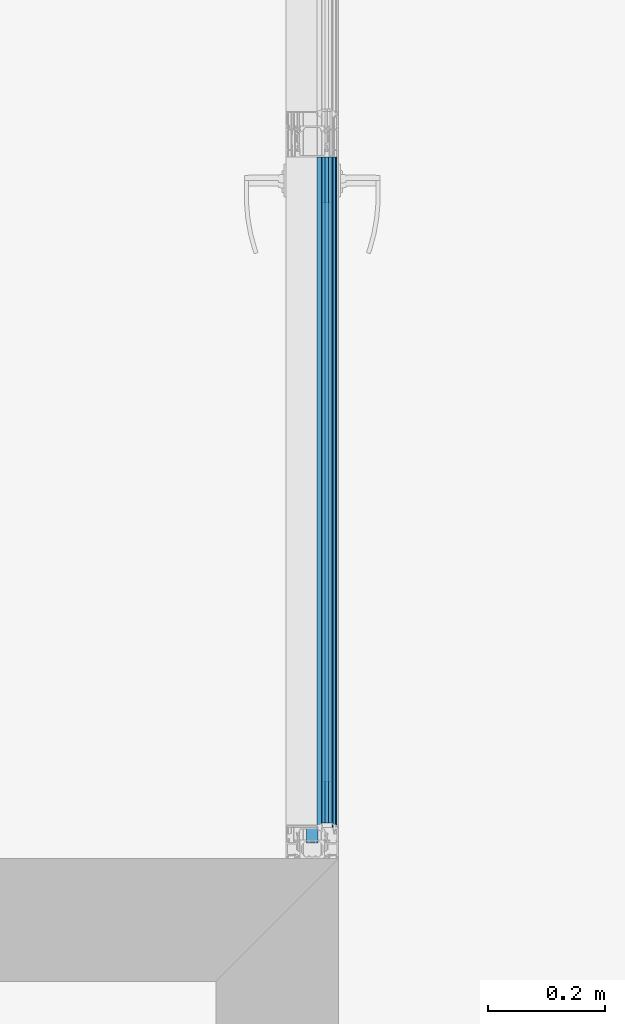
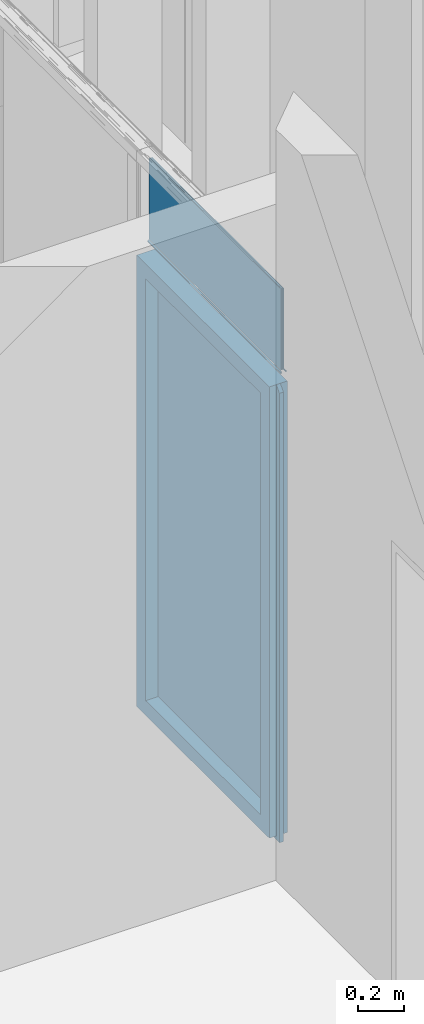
# One storey, part 51 of 89: 5 building element parts, 4 elements without a shape of their own.
"""IFC2X3 building model written with IfcOpenShell, lengths in millimetres."""

from ifc_helpers import new_model, entity, si_unit, converted_unit, derived_unit, money_unit, direction, frame, origin_with_axes, place, context, subcontext, project, spatial, faceted_brep, material, type_object, element, aggregate, save


model = new_model("IFC2X3")

# Units and contexts
model_context = context("Model", 3, precision=0.01, world=origin_with_axes(), true_north=direction((0.0, 1.0)))
body_context = subcontext(model_context, "Body", "Model", "MODEL_VIEW")
ifc_project = project(units=[si_unit("LENGTHUNIT", "METRE", prefix="MILLI"), si_unit("AREAUNIT", "SQUARE_METRE"), si_unit("VOLUMEUNIT", "CUBIC_METRE"), converted_unit("PLANEANGLEUNIT", "DEGREE", entity("IfcPlaneAngleMeasure", 0.0174532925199), si_unit("PLANEANGLEUNIT", "RADIAN"), dimensions=[0, 0, 0, 0, 0, 0, 0]), si_unit("SOLIDANGLEUNIT", "STERADIAN"), money_unit("EUR"), converted_unit("TIMEUNIT", "Year", entity("IfcTimeMeasure", 31556926.0), si_unit("TIMEUNIT", "SECOND"), dimensions=[0, 0, 1, 0, 0, 0, 0]), si_unit("MASSUNIT", "GRAM", prefix="KILO"), si_unit("THERMODYNAMICTEMPERATUREUNIT", "DEGREE_CELSIUS"), si_unit("LUMINOUSINTENSITYUNIT", "LUMEN"), si_unit("ENERGYUNIT", "JOULE", prefix="MEGA"), derived_unit("THERMALCONDUCTANCEUNIT", [(si_unit("POWERUNIT", "WATT"), 1), (si_unit("LENGTHUNIT", "METRE"), -1), (si_unit("THERMODYNAMICTEMPERATUREUNIT", "KELVIN"), -1)]), derived_unit("SPECIFICHEATCAPACITYUNIT", [(si_unit("ENERGYUNIT", "JOULE"), 1), (si_unit("MASSUNIT", "GRAM", prefix="KILO"), -1), (si_unit("THERMODYNAMICTEMPERATUREUNIT", "KELVIN"), -1)]), derived_unit("MASSDENSITYUNIT", [(si_unit("MASSUNIT", "GRAM", prefix="KILO"), 1), (si_unit("VOLUMEUNIT", "CUBIC_METRE"), -1)])], contexts=[model_context])

# Site, building, storey
site_placement = place(None, origin_with_axes())
site = spatial("IfcSite", under=ifc_project, at=site_placement, Name="Puškini 31, Narva", CompositionType="ELEMENT")
building_placement = place(site_placement, origin_with_axes())
building = spatial("IfcBuilding", under=site, at=building_placement, Name="Narva Riigigümnaasium", CompositionType="ELEMENT")
storey_placement = place(building_placement, frame((0.0, 0.0, -3300.0), z_axis=(0.0, 0.0, 1.0), x_axis=(1.0, 0.0, 0.0)))
storey = spatial("IfcBuildingStorey", under=building, at=storey_placement, Name="1.korrus -3.3", CompositionType="ELEMENT", Elevation=-3300.0)

# Curtain wall, door, building element parts, plate, member
curtain_wall_type = type_object("IfcCurtainWallType", Name="Curtain Wall Type", PredefinedType="NOTDEFINED")
curtain_wall_placement = place(storey_placement, frame((34855.0104166, 221770.599999, -2.45869391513e-05), z_axis=(0.0, 0.0, 1.0), x_axis=(1.0, 0.0, 0.0)))
curtain_wall = element("IfcCurtainWall", 1, at=curtain_wall_placement, inside=storey, type_object=curtain_wall_type, Name="G-SKLF-08")
door_style = type_object("IfcDoorStyle", Name="1132 x 2369 x 20", ConstructionType="NOTDEFINED", OperationType="NOTDEFINED", ParameterTakesPrecedence=False, Sizeable=False)
door_placement = place(curtain_wall_placement, frame((0.0, 0.0, 960.000024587), z_axis=(0.0, 0.0, 1.0), x_axis=(4.3055573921e-06, -0.999999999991, 0.0)))
door = element("IfcDoor", 2, at=door_placement, type_object=door_style, Name="G-SKLF-08-U1", ObjectType="DOOR")
ifc_material_1 = material(Name="Alumiiniumprofiil")
building_element_part_1_placement = place(door_placement, origin_with_axes())
building_element_part_1 = element("IfcBuildingElementPart", 3, at=building_element_part_1_placement, material=ifc_material_1, Name="Alumiiniumprofiil", context=body_context, shape_type="Brep", body=[
    faceted_brep([(463.799985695, -10.0, -960.0), (-668.217609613, -10.0, -960.0), (-668.217609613, 10.0, -960.0), (463.799985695, 10.0, -960.0), (437.400014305, -10.0, -940.0), (-709.4, -10.0, -940.0), (-709.4, 10.0, -940.0), (437.400014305, 10.0, -940.0)], [[[0, 1, 2, 3]], [[0, 4, 5, 1]], [[1, 5, 6, 2]], [[3, 2, 6, 7]], [[4, 0, 3, 7]], [[5, 4, 7, 6]]]),
    faceted_brep([(-709.4, -10.0, -940.0), (-709.4, -10.0, 1440.0), (-709.4, 10.0, 1440.0), (-709.4, 10.0, -940.0), (-668.217609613, -10.0, -960.0), (-668.217609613, -10.0, 1409.41763822), (-668.217609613, 10.0, 1409.41763822), (-668.217609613, 10.0, -960.0)], [[[0, 1, 2, 3]], [[0, 4, 5, 1]], [[1, 5, 6, 2]], [[3, 2, 6, 7]], [[4, 0, 3, 7]], [[5, 4, 7, 6]]]),
    faceted_brep([(-709.4, -10.0, 1440.0), (437.400014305, -10.0, 1440.0), (437.400014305, 10.0, 1440.0), (-709.4, 10.0, 1440.0), (-668.217609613, -10.0, 1409.41763822), (463.799985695, -10.0, 1409.41763822), (463.799985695, 10.0, 1409.41763822), (-668.217609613, 10.0, 1409.41763822)], [[[0, 1, 2, 3]], [[0, 4, 5, 1]], [[1, 5, 6, 2]], [[3, 2, 6, 7]], [[4, 0, 3, 7]], [[5, 4, 7, 6]]]),
    faceted_brep([(463.799985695, -10.0, 1409.41763822), (463.799985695, -10.0, -960.0), (463.799985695, 10.0, -960.0), (463.799985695, 10.0, 1409.41763822), (437.400014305, -10.0, 1440.0), (437.400014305, -10.0, -940.0), (437.400014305, 10.0, -940.0), (437.400014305, 10.0, 1440.0)], [[[0, 1, 2, 3]], [[0, 4, 5, 1]], [[1, 5, 6, 2]], [[3, 2, 6, 7]], [[4, 0, 3, 7]], [[5, 4, 7, 6]]]),
    faceted_brep([(359.400014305, 45.0, -862.0), (359.400014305, -45.0, -862.0), (359.400014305, -45.0, 1362.0), (359.400014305, 45.0, 1362.0), (437.400014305, 45.0, -940.0), (437.400014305, -45.0, -940.0), (437.400014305, -45.0, 1440.0), (437.400014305, 45.0, 1440.0)], [[[0, 1, 2, 3]], [[4, 5, 1, 0]], [[1, 5, 6, 2]], [[3, 2, 6, 7]], [[0, 3, 7, 4]], [[7, 6, 5, 4]]]),
    faceted_brep([(-709.4, 45.0, -940.0), (-709.4, -45.0, -940.0), (-709.4, -45.0, 1440.0), (-709.4, 45.0, 1440.0), (-631.4, 45.0, -862.0), (-631.4, -45.0, -862.0), (-631.4, -45.0, 1362.0), (-631.4, 45.0, 1362.0)], [[[0, 1, 2, 3]], [[4, 5, 1, 0]], [[1, 5, 6, 2]], [[3, 2, 6, 7]], [[0, 3, 7, 4]], [[7, 6, 5, 4]]]),
    faceted_brep([(-709.4, 45.0, -940.0), (-709.4, -45.0, -940.0), (-631.4, -45.0, -862.0), (-631.4, 45.0, -862.0), (437.400014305, 45.0, -940.0), (437.400014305, -45.0, -940.0), (359.400014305, -45.0, -862.0), (359.400014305, 45.0, -862.0)], [[[0, 1, 2, 3]], [[4, 5, 1, 0]], [[1, 5, 6, 2]], [[3, 2, 6, 7]], [[0, 3, 7, 4]], [[7, 6, 5, 4]]]),
    faceted_brep([(437.400014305, 45.0, 1440.0), (437.400014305, -45.0, 1440.0), (359.400014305, -45.0, 1362.0), (359.400014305, 45.0, 1362.0), (-709.4, 45.0, 1440.0), (-709.4, -45.0, 1440.0), (-631.4, -45.0, 1362.0), (-631.4, 45.0, 1362.0)], [[[0, 1, 2, 3]], [[4, 5, 1, 0]], [[1, 5, 6, 2]], [[3, 2, 6, 7]], [[0, 3, 7, 4]], [[7, 6, 5, 4]]]),
])
ifc_material_2 = material(Name="VKR-05_Klaas")
building_element_part_2_placement = place(door_placement, origin_with_axes())
building_element_part_2 = element("IfcBuildingElementPart", 4, at=building_element_part_2_placement, material=ifc_material_2, Name="VKR-05_Klaas", context=body_context, shape_type="Brep", body=[
    faceted_brep([(359.400014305, 33.0, -862.0), (359.400014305, 17.0, -862.0), (-631.4, 17.0, -862.0), (-631.4, 33.0, -862.0), (359.400014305, 33.0, 1362.0), (359.400014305, 17.0, 1362.0), (-631.4, 17.0, 1362.0), (-631.4, 33.0, 1362.0)], [[[0, 1, 2, 3]], [[4, 5, 1, 0]], [[1, 5, 6, 2]], [[3, 2, 6, 7]], [[0, 3, 7, 4]], [[7, 6, 5, 4]]]),
])
aggregate(door, [building_element_part_1, building_element_part_2])
plate_type = type_object("IfcPlateType", Name="Distinct Panel 1128 x 489 x 20", PredefinedType="CURTAIN_PANEL")
plate_placement = place(curtain_wall_placement, frame((-0.000471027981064, 109.399999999, 2675.00002459), z_axis=(0.0, 0.0, 1.0), x_axis=(4.3055573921e-06, -0.999999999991, 0.0)))
plate = element("IfcPlate", 5, at=plate_placement, type_object=plate_type, Name="G-SKLF-08-klaas", ObjectType="CURTAIN_PANEL")
building_element_part_3_placement = place(plate_placement, origin_with_axes())
building_element_part_3 = element("IfcBuildingElementPart", 6, at=building_element_part_3_placement, material=ifc_material_2, Name="VKR-05_Klaas", context=body_context, shape_type="Brep", body=[
    faceted_brep([(-600.0, 17.0, 213.835294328), (538.835294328, 17.0, 213.835294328), (538.835294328, 22.0, 213.835294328), (-600.0, 22.0, 213.835294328), (-600.0, 17.0, -213.835294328), (538.835294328, 17.0, -213.835294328), (538.835294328, 22.0, -213.835294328), (-600.0, 22.0, -213.835294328)], [[[0, 1, 2, 3]], [[0, 4, 5, 1]], [[1, 5, 6, 2]], [[3, 2, 6, 7]], [[4, 0, 3, 7]], [[5, 4, 7, 6]]]),
    faceted_brep([(-600.0, 28.0, 213.835294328), (538.835294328, 28.0, 213.835294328), (538.835294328, 33.0, 213.835294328), (-600.0, 33.0, 213.835294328), (-600.0, 28.0, -213.835294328), (538.835294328, 28.0, -213.835294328), (538.835294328, 33.0, -213.835294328), (-600.0, 33.0, -213.835294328)], [[[0, 1, 2, 3]], [[0, 4, 5, 1]], [[1, 5, 6, 2]], [[3, 2, 6, 7]], [[4, 0, 3, 7]], [[5, 4, 7, 6]]]),
])
ifc_material_3 = material(Name="VKR-06_Õhkvahe")
building_element_part_4_placement = place(plate_placement, origin_with_axes())
building_element_part_4 = element("IfcBuildingElementPart", 7, at=building_element_part_4_placement, material=ifc_material_3, Name="VKR-06_Õhkvahe", context=body_context, shape_type="Brep", body=[
    faceted_brep([(-600.0, 22.0, 213.835294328), (538.835294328, 22.0, 213.835294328), (538.835294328, 28.0, 213.835294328), (-600.0, 28.0, 213.835294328), (-600.0, 22.0, -213.835294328), (538.835294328, 22.0, -213.835294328), (538.835294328, 28.0, -213.835294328), (-600.0, 28.0, -213.835294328)], [[[0, 1, 2, 3]], [[0, 4, 5, 1]], [[1, 5, 6, 2]], [[3, 2, 6, 7]], [[4, 0, 3, 7]], [[5, 4, 7, 6]]]),
])
aggregate(plate, [building_element_part_3, building_element_part_4])
member_type = type_object("IfcMemberType", Name="61 x 35", PredefinedType="MULLION")
member_placement = place(curtain_wall_placement, frame((0.00211230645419, -490.599999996, 2400.00002459), z_axis=(-4.3055573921e-06, 0.999999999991, 0.0), x_axis=(0.0, 0.0, 1.0)))
member = element("IfcMember", 8, at=member_placement, type_object=member_type, Name="G-SKLF-08-raam", ObjectType="MULLION")
aggregate(curtain_wall, [door, member, plate])
ifc_material_4 = material(Name="Membraan - Veekindel")
building_element_part_5_placement = place(member_placement, origin_with_axes())
building_element_part_5 = element("IfcBuildingElementPart", 9, at=building_element_part_5_placement, material=ifc_material_4, Name="Membraan - Veekindel", context=body_context, shape_type="Brep", body=[
    faceted_brep([(59.5800222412, 34.73794757, 53.2), (59.5800222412, 34.73794757, 1200.0), (61.0413385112, 34.3890442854, 1200.0), (61.0413385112, 34.3890442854, 53.2), (58.4755028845, 35.3628499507, 53.2), (58.4755028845, 35.3628499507, 1200.0), (57.9693613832, 36.5265882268, 1200.0), (57.7000324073, 39.5999584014, 1200.0), (57.6464370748, 39.799971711, 1200.0), (57.5000161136, 39.946391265, 1200.0), (57.3000022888, 39.9999846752, 1200.0), (57.3000022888, 39.1999494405, 1200.0), (55.3000210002, 39.1999606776, 1200.0), (55.2330337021, 38.9499606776, 1200.0), (55.0500210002, 38.7669479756, 1200.0), (54.8000210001, 38.6999606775, 1200.0), (54.5500210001, 38.7669479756, 1200.0), (54.3670082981, 38.9499606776, 1200.0), (54.300021, 39.1999606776, 1200.0), (54.300021, 40.4999366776, 1200.0), (54.3402133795, 40.6499366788, 1200.0), (54.4500210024, 40.7597443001, 1200.0), (54.6000210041, 40.7999366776, 1200.0), (54.7000173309, 40.7999366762, 1200.0), (54.866675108, 40.850483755, 1200.0), (54.9771753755, 40.9850924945, 1200.0), (54.9942836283, 41.1584047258, 1200.0), (54.9122350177, 41.3120206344, 1200.0), (53.8716106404, 42.3533776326, 1200.0), (53.7093558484, 42.4618547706, 1200.0), (53.517932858, 42.4999486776, 1200.0), (51.8818844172, 42.4999486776, 1200.0), (51.6904310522, 42.4618421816, 1200.0), (51.5281601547, 42.3533311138, 1200.0), (50.4878083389, 41.3119729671, 1200.0), (50.4057850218, 41.1583618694, 1200.0), (50.4229059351, 40.9850671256, 1200.0), (50.5334025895, 40.8504763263, 1200.0), (50.7000457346, 40.7999366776, 1200.0), (50.80004, 40.7999366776, 1200.0), (50.95004, 40.7597442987, 1200.0), (51.0598476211, 40.6499366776, 1200.0), (51.10004, 40.4999366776, 1200.0), (51.10004, 39.1999550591, 1200.0), (51.0330541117, 38.9499546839, 1200.0), (50.8500424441, 38.7669409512, 1200.0), (50.6000428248, 38.699952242, 1200.0), (50.3500424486, 38.7669381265, 1200.0), (50.1670287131, 38.9499497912, 1200.0), (50.10004, 39.1999494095, 1200.0), (48.7206527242, 39.1999494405, 1200.0), (48.7206527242, 38.0023809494, 1200.0), (48.7876400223, 37.7523809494, 1200.0), (48.9706527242, 37.5693682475, 1200.0), (49.2206527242, 37.5023809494, 1200.0), (50.3319753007, 37.5023809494, 1200.0), (50.5819753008, 37.4353936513, 1200.0), (50.7649880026, 37.2523809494, 1200.0), (51.1691331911, 36.5523809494, 1200.0), (51.352145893, 36.3693682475, 1200.0), (51.602145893, 36.3023809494, 1200.0), (53.8391557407, 36.3023809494, 1200.0), (54.0891557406, 36.3693682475, 1200.0), (54.2721684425, 36.5523809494, 1200.0), (54.676313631, 37.2523809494, 1200.0), (54.8593263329, 37.4353936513, 1200.0), (55.1093263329, 37.5023809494, 1200.0), (55.7607444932, 37.5023809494, 1200.0), (55.9795989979, 37.4519392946, 1200.0), (56.1542959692, 37.3107917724, 1200.0), (56.2495873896, 37.1074172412, 1200.0), (56.9567944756, 35.6067920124, 1200.0), (58.2346494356, 34.5489145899, 1200.0), (59.8409257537, 34.1343131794, 1200.0), (60.7381535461, 33.9217644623, 1200.0), (61.0108941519, 33.784859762, 1200.0), (61.1423164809, 33.9681748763, 1200.0), (61.1536677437, 34.1934467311, 1200.0), (53.5000340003, 40.7999553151, 1200.0), (53.433048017, 39.44993177, 1200.0), (53.2500389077, 39.2669226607, 1200.0), (53.0000438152, 39.1999366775, 1200.0), (52.4000171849, 39.1999366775, 1200.0), (52.1500220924, 39.2669226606, 1200.0), (51.9670129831, 39.4499317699, 1200.0), (51.9000269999, 39.6999268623, 1200.0), (51.9000269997, 40.799955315, 1200.0), (51.9670118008, 41.0499459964, 1200.0), (52.150017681, 41.2329518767, 1200.0), (52.4000083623, 41.299936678, 1200.0), (53.0000526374, 41.299936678, 1200.0), (53.2500433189, 41.2329518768, 1200.0), (53.4330491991, 41.0499459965, 1200.0), (61.1536677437, 34.1934467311, 53.2), (61.1423164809, 33.9681748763, 53.2), (61.0108941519, 33.784859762, 53.2), (60.7381535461, 33.9217644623, 53.2), (59.8409257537, 34.1343131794, 53.2), (58.2346494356, 34.5489145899, 53.2), (56.9567944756, 35.6067920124, 53.2), (56.2495873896, 37.1074172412, 53.2), (56.1542959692, 37.3107917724, 53.2), (55.9795989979, 37.4519392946, 53.2), (55.7607444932, 37.5023809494, 53.2), (55.1093263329, 37.5023809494, 53.2), (54.8593263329, 37.4353936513, 53.2), (54.676313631, 37.2523809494, 53.2), (54.2721684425, 36.5523809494, 53.2), (54.0891557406, 36.3693682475, 53.2), (53.8391557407, 36.3023809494, 53.2), (51.602145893, 36.3023809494, 53.2), (51.352145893, 36.3693682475, 53.2), (51.1691331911, 36.5523809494, 53.2), (50.7649880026, 37.2523809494, 53.2), (50.5819753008, 37.4353936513, 53.2), (50.3319753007, 37.5023809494, 53.2), (49.2206527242, 37.5023809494, 53.2), (48.9706527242, 37.5693682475, 53.2), (48.7876400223, 37.7523809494, 53.2), (48.7206527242, 38.0023809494, 53.2), (48.7206527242, 39.1999494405, 53.2), (50.10004, 39.1999494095, 53.2), (50.1670287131, 38.9499497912, 53.2), (50.3500424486, 38.7669381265, 53.2), (50.6000428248, 38.699952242, 53.2), (50.8500424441, 38.7669409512, 53.2), (51.0330541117, 38.9499546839, 53.2), (51.10004, 39.1999550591, 53.2), (51.10004, 40.4999366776, 53.2), (51.0598476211, 40.6499366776, 53.2), (50.95004, 40.7597442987, 53.2), (50.80004, 40.7999366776, 53.2), (50.7000457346, 40.7999366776, 53.2), (50.5334025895, 40.8504763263, 53.2), (50.4229059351, 40.9850671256, 53.2), (50.4057850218, 41.1583618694, 53.2), (50.4878083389, 41.3119729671, 53.2), (51.5281601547, 42.3533311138, 53.2), (51.6904310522, 42.4618421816, 53.2), (51.8818844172, 42.4999486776, 53.2), (53.517932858, 42.4999486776, 53.2), (53.7093558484, 42.4618547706, 53.2), (53.8716106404, 42.3533776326, 53.2), (54.9122350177, 41.3120206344, 53.2), (54.9942836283, 41.1584047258, 53.2), (54.9771753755, 40.9850924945, 53.2), (54.866675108, 40.850483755, 53.2), (54.7000173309, 40.7999366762, 53.2), (54.6000210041, 40.7999366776, 53.2), (54.4500210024, 40.7597443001, 53.2), (54.3402133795, 40.6499366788, 53.2), (54.300021, 40.4999366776, 53.2), (54.300021, 39.1999606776, 53.2), (54.3670082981, 38.9499606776, 53.2), (54.5500210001, 38.7669479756, 53.2), (54.8000210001, 38.6999606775, 53.2), (55.0500210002, 38.7669479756, 53.2), (55.2330337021, 38.9499606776, 53.2), (55.3000210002, 39.1999606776, 53.2), (57.3000022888, 39.1999494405, 53.2), (57.3000022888, 39.9999846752, 53.2), (57.5000161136, 39.946391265, 53.2), (57.6464370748, 39.799971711, 53.2), (57.7000324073, 39.5999584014, 53.2), (57.9693613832, 36.5265882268, 53.2), (53.5000340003, 40.7999553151, 53.2), (53.4330491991, 41.0499459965, 53.2), (53.2500433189, 41.2329518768, 53.2), (53.0000526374, 41.299936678, 53.2), (52.4000083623, 41.299936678, 53.2), (52.150017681, 41.2329518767, 53.2), (51.9670118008, 41.0499459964, 53.2), (51.9000269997, 40.799955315, 53.2), (51.9000269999, 39.6999268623, 53.2), (51.9670129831, 39.4499317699, 53.2), (52.1500220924, 39.2669226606, 53.2), (52.4000171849, 39.1999366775, 53.2), (53.0000438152, 39.1999366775, 53.2), (53.2500389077, 39.2669226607, 53.2), (53.433048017, 39.44993177, 53.2)], [[[0, 1, 2, 3]], [[4, 5, 1, 0]], [[2, 1, 5, 6, 7, 8, 9, 10, 11, 12, 13, 14, 15, 16, 17, 18, 19, 20, 21, 22, 23, 24, 25, 26, 27, 28, 29, 30, 31, 32, 33, 34, 35, 36, 37, 38, 39, 40, 41, 42, 43, 44, 45, 46, 47, 48, 49, 50, 51, 52, 53, 54, 55, 56, 57, 58, 59, 60, 61, 62, 63, 64, 65, 66, 67, 68, 69, 70, 71, 72, 73, 74, 75, 76, 77], [78, 79, 80, 81, 82, 83, 84, 85, 86, 87, 88, 89, 90, 91, 92]], [[3, 2, 77, 93]], [[3, 93, 94, 95, 96, 97, 98, 99, 100, 101, 102, 103, 104, 105, 106, 107, 108, 109, 110, 111, 112, 113, 114, 115, 116, 117, 118, 119, 120, 121, 122, 123, 124, 125, 126, 127, 128, 129, 130, 131, 132, 133, 134, 135, 136, 137, 138, 139, 140, 141, 142, 143, 144, 145, 146, 147, 148, 149, 150, 151, 152, 153, 154, 155, 156, 157, 158, 159, 160, 161, 162, 163, 164, 4, 0], [165, 166, 167, 168, 169, 170, 171, 172, 173, 174, 175, 176, 177, 178, 179]], [[164, 6, 5, 4]], [[163, 7, 6, 164]], [[162, 8, 7, 163]], [[161, 9, 8, 162]], [[160, 10, 9, 161]], [[159, 11, 10, 160]], [[158, 12, 11, 159]], [[157, 13, 12, 158]], [[156, 14, 13, 157]], [[155, 15, 14, 156]], [[154, 16, 15, 155]], [[153, 17, 16, 154]], [[152, 18, 17, 153]], [[151, 19, 18, 152]], [[150, 20, 19, 151]], [[149, 21, 20, 150]], [[148, 22, 21, 149]], [[147, 23, 22, 148]], [[146, 24, 23, 147]], [[145, 25, 24, 146]], [[144, 26, 25, 145]], [[143, 27, 26, 144]], [[142, 28, 27, 143]], [[141, 29, 28, 142]], [[140, 30, 29, 141]], [[139, 31, 30, 140]], [[138, 32, 31, 139]], [[137, 33, 32, 138]], [[136, 34, 33, 137]], [[135, 35, 34, 136]], [[134, 36, 35, 135]], [[133, 37, 36, 134]], [[132, 38, 37, 133]], [[131, 39, 38, 132]], [[130, 40, 39, 131]], [[129, 41, 40, 130]], [[128, 42, 41, 129]], [[127, 43, 42, 128]], [[126, 44, 43, 127]], [[125, 45, 44, 126]], [[124, 46, 45, 125]], [[123, 47, 46, 124]], [[122, 48, 47, 123]], [[121, 49, 48, 122]], [[120, 50, 49, 121]], [[119, 51, 50, 120]], [[118, 52, 51, 119]], [[117, 53, 52, 118]], [[116, 54, 53, 117]], [[115, 55, 54, 116]], [[114, 56, 55, 115]], [[113, 57, 56, 114]], [[112, 58, 57, 113]], [[111, 59, 58, 112]], [[110, 60, 59, 111]], [[109, 61, 60, 110]], [[108, 62, 61, 109]], [[107, 63, 62, 108]], [[106, 64, 63, 107]], [[105, 65, 64, 106]], [[104, 66, 65, 105]], [[103, 67, 66, 104]], [[102, 68, 67, 103]], [[101, 69, 68, 102]], [[100, 70, 69, 101]], [[99, 71, 70, 100]], [[98, 72, 71, 99]], [[97, 73, 72, 98]], [[96, 74, 73, 97]], [[95, 75, 74, 96]], [[94, 76, 75, 95]], [[93, 77, 76, 94]], [[179, 79, 78, 165]], [[178, 80, 79, 179]], [[177, 81, 80, 178]], [[176, 82, 81, 177]], [[175, 83, 82, 176]], [[174, 84, 83, 175]], [[173, 85, 84, 174]], [[172, 86, 85, 173]], [[171, 87, 86, 172]], [[170, 88, 87, 171]], [[169, 89, 88, 170]], [[168, 90, 89, 169]], [[167, 91, 90, 168]], [[166, 92, 91, 167]], [[165, 78, 92, 166]]]),
    faceted_brep([(55.9926715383, 16.8063498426, 53.2), (55.9926715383, 16.8063498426, 1200.0), (59.0307115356, 16.554149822, 1200.0), (59.0307115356, 16.554149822, 53.2), (53.7899070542, 16.6230039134, 53.2), (53.7899070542, 16.6230039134, 1200.0), (53.1225200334, 16.3483062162, 1200.0), (51.5205025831, 15.0099586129, 1200.0), (51.3011765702, 14.8998814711, 1200.0), (51.0558924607, 14.9074036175, 1200.0), (50.8437237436, 15.0307134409, 1200.0), (50.5536994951, 15.2121179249, 1200.0), (46.298307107, 16.7340705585, 1200.0), (45.950966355, 16.7718696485, 1200.0), (45.6241929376, 16.6482027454, 1200.0), (45.3889077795, 16.3899097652, 1200.0), (45.3195226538, 16.2152275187, 1200.0), (45.3418968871, 15.7688623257, 1200.0), (45.6142070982, 15.4144760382, 1200.0), (51.8169217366, 8.74599822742, 1200.0), (51.938943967, 8.6326446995, 1200.0), (52.1026310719, 8.60190419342, 1200.0), (52.2574645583, 8.66326410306, 1200.0), (52.3556584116, 8.79778701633, 1200.0), (52.7761212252, 9.95299910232, 1200.0), (52.8859560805, 10.0961386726, 1200.0), (53.0580290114, 10.1503930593, 1200.0), (55.1123574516, 10.1503930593, 1200.0), (55.2731258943, 10.1036784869, 1200.0), (55.3838261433, 9.9780831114, 1200.0), (55.4099827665, 9.81272116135, 1200.0), (55.2940485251, 8.85237785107, 1200.0), (55.3307332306, 8.72753828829, 1200.0), (55.4168250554, 8.62997353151, 1200.0), (55.5361285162, 8.57803733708, 1200.0), (56.9361285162, 8.30590490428, 1200.0), (57.0661058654, 8.3093438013, 1200.0), (57.1824204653, 8.36745448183, 1200.0), (57.2632233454, 8.46932121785, 1200.0), (57.5418652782, 10.0035930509, 1200.0), (59.3405112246, 15.0012955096, 1200.0), (59.5001582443, 15.5494067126, 1200.0), (59.3884652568, 16.1092618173, 1200.0), (59.3884652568, 16.1092618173, 53.2), (59.5001582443, 15.5494067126, 53.2), (59.3405112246, 15.0012955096, 53.2), (57.5418652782, 10.0035930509, 53.2), (57.2632233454, 8.46932121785, 53.2), (57.1824204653, 8.36745448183, 53.2), (57.0661058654, 8.3093438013, 53.2), (56.9361285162, 8.30590490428, 53.2), (55.5361285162, 8.57803733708, 53.2), (55.4168250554, 8.62997353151, 53.2), (55.3307332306, 8.72753828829, 53.2), (55.2940485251, 8.85237785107, 53.2), (55.4099827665, 9.81272116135, 53.2), (55.3838261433, 9.9780831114, 53.2), (55.2731258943, 10.1036784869, 53.2), (55.1123574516, 10.1503930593, 53.2), (53.0580290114, 10.1503930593, 53.2), (52.8859560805, 10.0961386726, 53.2), (52.7761212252, 9.95299910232, 53.2), (52.3556584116, 8.79778701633, 53.2), (52.2574645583, 8.66326410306, 53.2), (52.1026310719, 8.60190419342, 53.2), (51.938943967, 8.6326446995, 53.2), (51.8169217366, 8.74599822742, 53.2), (45.6142070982, 15.4144760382, 53.2), (45.3418968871, 15.7688623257, 53.2), (45.3195226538, 16.2152275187, 53.2), (45.3889077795, 16.3899097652, 53.2), (45.6241929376, 16.6482027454, 53.2), (45.950966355, 16.7718696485, 53.2), (46.298307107, 16.7340705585, 53.2), (50.5536994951, 15.2121179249, 53.2), (50.8437237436, 15.0307134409, 53.2), (51.0558924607, 14.9074036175, 53.2), (51.3011765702, 14.8998814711, 53.2), (51.5205025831, 15.0099586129, 53.2), (53.1225200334, 16.3483062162, 53.2)], [[[0, 1, 2, 3]], [[4, 5, 1, 0]], [[2, 1, 5, 6, 7, 8, 9, 10, 11, 12, 13, 14, 15, 16, 17, 18, 19, 20, 21, 22, 23, 24, 25, 26, 27, 28, 29, 30, 31, 32, 33, 34, 35, 36, 37, 38, 39, 40, 41, 42]], [[3, 2, 42, 43]], [[3, 43, 44, 45, 46, 47, 48, 49, 50, 51, 52, 53, 54, 55, 56, 57, 58, 59, 60, 61, 62, 63, 64, 65, 66, 67, 68, 69, 70, 71, 72, 73, 74, 75, 76, 77, 78, 79, 4, 0]], [[79, 6, 5, 4]], [[78, 7, 6, 79]], [[77, 8, 7, 78]], [[76, 9, 8, 77]], [[75, 10, 9, 76]], [[74, 11, 10, 75]], [[73, 12, 11, 74]], [[72, 13, 12, 73]], [[71, 14, 13, 72]], [[70, 15, 14, 71]], [[69, 16, 15, 70]], [[68, 17, 16, 69]], [[67, 18, 17, 68]], [[66, 19, 18, 67]], [[65, 20, 19, 66]], [[64, 21, 20, 65]], [[63, 22, 21, 64]], [[62, 23, 22, 63]], [[61, 24, 23, 62]], [[60, 25, 24, 61]], [[59, 26, 25, 60]], [[58, 27, 26, 59]], [[57, 28, 27, 58]], [[56, 29, 28, 57]], [[55, 30, 29, 56]], [[54, 31, 30, 55]], [[53, 32, 31, 54]], [[52, 33, 32, 53]], [[51, 34, 33, 52]], [[50, 35, 34, 51]], [[49, 36, 35, 50]], [[48, 37, 36, 49]], [[47, 38, 37, 48]], [[46, 39, 38, 47]], [[45, 40, 39, 46]], [[44, 41, 40, 45]], [[43, 42, 41, 44]]]),
])
aggregate(member, [building_element_part_5])

save(model, "model.ifc")
